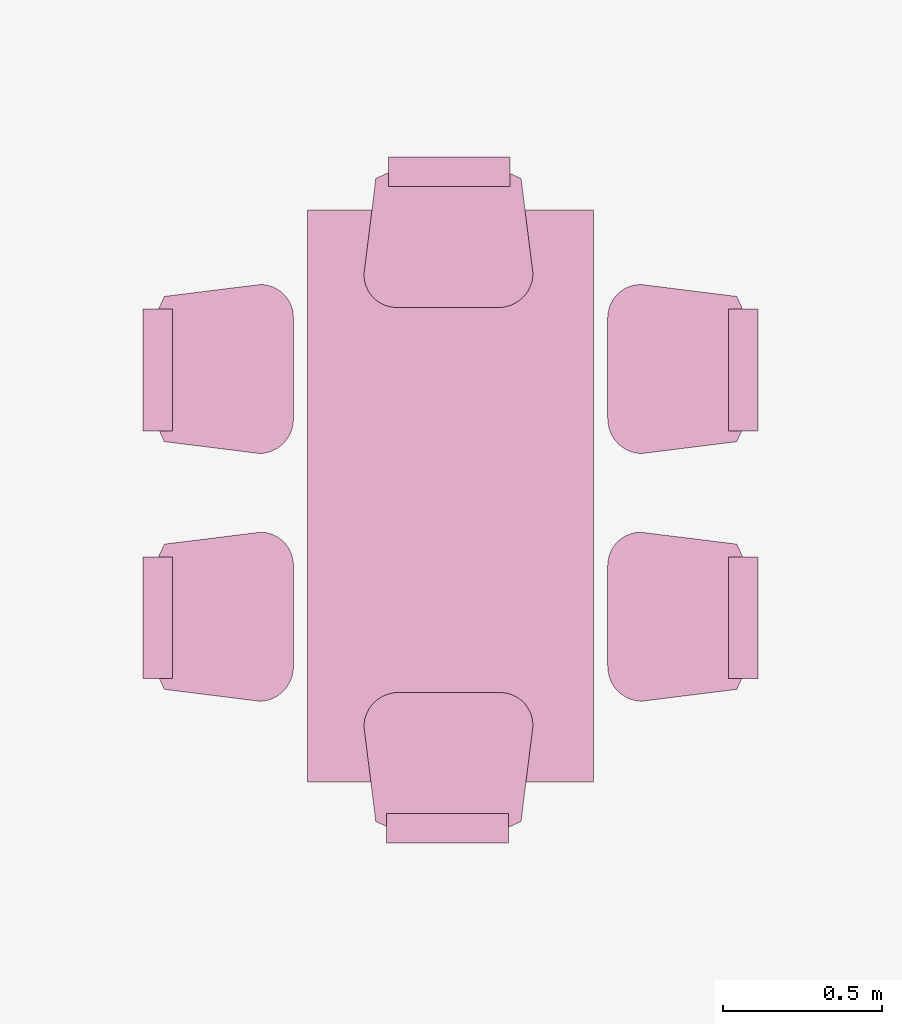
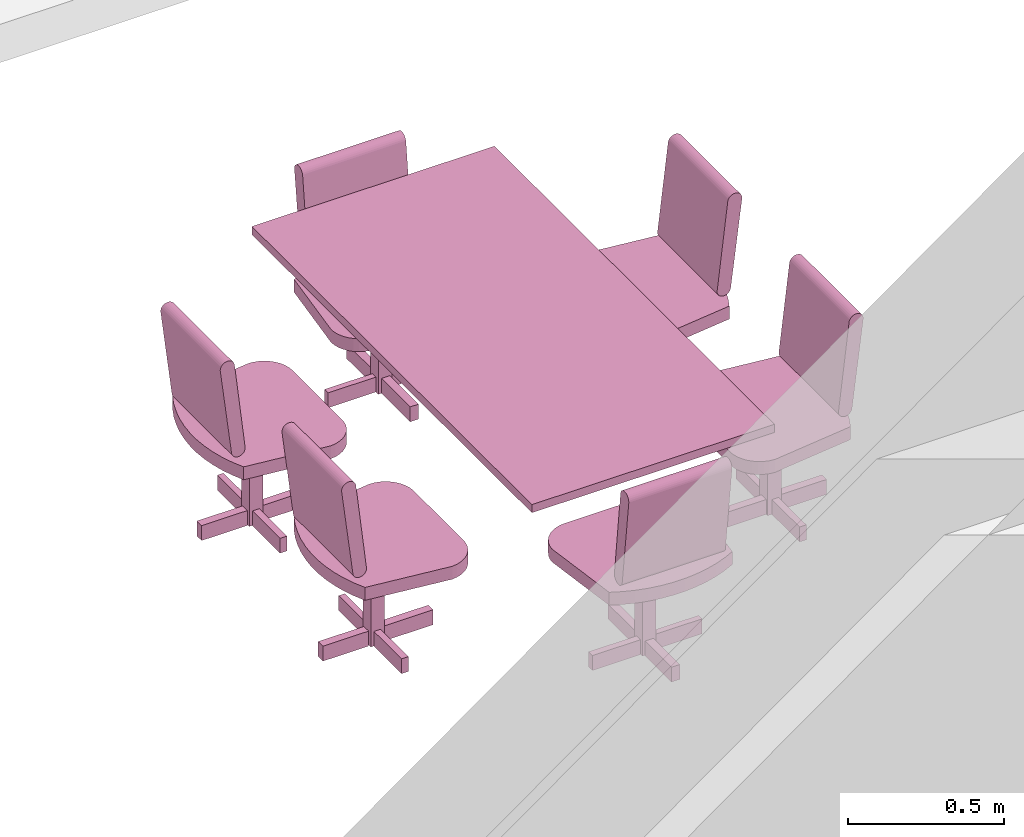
# One storey, part 60 of 64: 7 furnishings.
"""IFC2X3 building model written with IfcOpenShell, lengths in millimetres."""

import ifcopenshell
import ifcopenshell.guid

model = None  # the IFC model being written
_history = None  # IfcOwnerHistory: only IFC2X3 demands one
_inside = {}  # id of a spatial element -> (the spatial element, [elements in it])
_under = {}  # id of a project, library or spatial element -> (it, [spatial elements below it])
_declared = {}  # id of a project -> (the project, [libraries it declares])
_typed = {}  # id of a type object -> (the type object, [elements of that type])
_made_of = {}  # id of a material, layer set ... -> (it, [elements and type objects made of it])


def new_model(schema):
    """Start an empty IFC model of exactly this schema.

    Asked for "IFC4X3", IfcOpenShell would pick the latest addendum, in which some entities
    have other attributes; the version numbers below select the first issue.
    IFC2X3 requires an IfcOwnerHistory on every rooted entity: one is made here for all.
    """
    global model, _history
    if schema == "IFC4X3":
        model = ifcopenshell.file(schema_version=(4, 3, 0, 0))
    else:
        model = ifcopenshell.file(schema=schema)
    _inside.clear()
    _under.clear()
    _declared.clear()
    _typed.clear()
    _made_of.clear()
    _history = None
    if model.schema == "IFC2X3":
        org = make("IfcOrganization", Name="unknown")
        user = make(
            "IfcPersonAndOrganization",
            ThePerson=make("IfcPerson", FamilyName="unknown"),
            TheOrganization=org,
        )
        app = make(
            "IfcApplication",
            ApplicationDeveloper=org,
            Version="unknown",
            ApplicationFullName="unknown",
            ApplicationIdentifier="unknown",
        )
        _history = make(
            "IfcOwnerHistory",
            OwningUser=user,
            OwningApplication=app,
            ChangeAction="ADDED",
            CreationDate=0,
        )
    return model


def make(cls, **values):
    """One entity of the class cls with the attributes given. An attribute that is None is left unset."""
    return model.create_entity(
        cls, **{name: value for name, value in values.items() if value is not None}
    )


def entity(cls, *values):
    """Any entity or typed value of the class cls, its attributes in the order of the schema. None: left unset."""
    e = model.create_entity(cls)
    for i, value in enumerate(values):
        if value is not None:
            e[i] = value
    return e


def rooted(cls, **values):
    """An entity with a GlobalId (a new one), such as an element, a storey or a relation."""
    return make(cls, GlobalId=ifcopenshell.guid.new(), OwnerHistory=_history, **values)


def si_unit(unit_type, name, prefix=None):
    """IfcSIUnit, for example si_unit("LENGTHUNIT", "METRE", prefix="MILLI")."""
    return make("IfcSIUnit", UnitType=unit_type, Prefix=prefix, Name=name)


def converted_unit(unit_type, name, factor, base, dimensions=None, offset=None):
    """IfcConversionBasedUnit, such as the inch: factor (a typed value) times the base unit."""
    return make(
        "IfcConversionBasedUnit"
        if offset is None
        else "IfcConversionBasedUnitWithOffset",
        ConversionOffset=offset,
        Dimensions=None
        if dimensions is None
        else entity("IfcDimensionalExponents", *dimensions),
        UnitType=unit_type,
        Name=name,
        ConversionFactor=make(
            "IfcMeasureWithUnit", ValueComponent=factor, UnitComponent=base
        ),
    )


def derived_unit(unit_type, elements):
    """IfcDerivedUnit: a product of units, each with its exponent."""
    return make(
        "IfcDerivedUnit",
        Elements=[
            make("IfcDerivedUnitElement", Unit=unit, Exponent=power)
            for unit, power in elements
        ],
        UnitType=unit_type,
    )


def assignment(units):
    """IfcUnitAssignment: the units of a project."""
    return None if units is None else make("IfcUnitAssignment", Units=units)


def point(xyz):
    """IfcCartesianPoint."""
    return None if xyz is None else make("IfcCartesianPoint", Coordinates=xyz)


def direction(xyz):
    """IfcDirection."""
    return None if xyz is None else make("IfcDirection", DirectionRatios=xyz)


def frame(location, z_axis=None, x_axis=None):
    """IfcAxis2Placement3D, a coordinate frame: its origin and axes. An axis left out is left unset."""
    return make(
        "IfcAxis2Placement3D",
        Location=point(location),
        Axis=direction(z_axis),
        RefDirection=direction(x_axis),
    )


def frame_2d(location, x_axis=None):
    """IfcAxis2Placement2D, a coordinate frame in the plane: its origin and x axis."""
    return make(
        "IfcAxis2Placement2D", Location=point(location), RefDirection=direction(x_axis)
    )


def origin():
    """The frame at (0, 0, 0) with its axes left unset."""
    return frame((0.0, 0.0, 0.0))


def origin_2d_with_axis():
    """The frame at (0, 0) in the plane with the x axis (1, 0) written out."""
    return frame_2d((0.0, 0.0), x_axis=(1.0, 0.0))


def place(relative_to, where):
    """IfcLocalPlacement: puts the frame where relative to a parent placement (None: the world)."""
    return make(
        "IfcLocalPlacement", PlacementRelTo=relative_to, RelativePlacement=where
    )


def context(
    kind, dimensions, precision=None, world=None, true_north=None, identifier=None
):
    """IfcGeometricRepresentationContext, for example the 3D "Model" context."""
    return make(
        "IfcGeometricRepresentationContext",
        ContextIdentifier=identifier,
        ContextType=kind,
        CoordinateSpaceDimension=dimensions,
        Precision=precision,
        WorldCoordinateSystem=world,
        TrueNorth=true_north,
    )


def subcontext(parent, identifier, kind, view, scale=None):
    """IfcGeometricRepresentationSubContext, for example "Body" below "Model"."""
    return make(
        "IfcGeometricRepresentationSubContext",
        ContextIdentifier=identifier,
        ContextType=kind,
        ParentContext=parent,
        TargetScale=scale,
        TargetView=view,
    )


def project(units=None, contexts=None):
    """IfcProject with its units and contexts."""
    return rooted(
        "IfcProject",
        Name="project",
        RepresentationContexts=contexts,
        UnitsInContext=assignment(units),
    )


def spatial(cls, under=None, at=None, **own):
    """A site, building, storey or space (cls), placed at a placement, below another one or the project."""
    s = rooted(cls, ObjectPlacement=at, **own)
    if under is not None:
        _under.setdefault(under.id(), (under, []))[1].append(s)
    return s


def polyline(points):
    """IfcPolyline through the points."""
    return make("IfcPolyline", Points=[point(p) for p in points])


def circle_curve(where, radius):
    """IfcCircle in the frame where."""
    return make("IfcCircle", Position=where, Radius=radius)


def parameter(value):
    """IfcParameterValue: where a trimmed curve begins or ends, as a parameter of its basis curve."""
    return model.create_entity("IfcParameterValue", value)


def trimmed(basis, trim1, trim2, sense, master):
    """IfcTrimmedCurve: the piece of a basis curve between two trims."""
    return make(
        "IfcTrimmedCurve",
        BasisCurve=basis,
        Trim1=trim1,
        Trim2=trim2,
        SenseAgreement=sense,
        MasterRepresentation=master,
    )


def segment(curve, same_sense, transition):
    """IfcCompositeCurveSegment."""
    return make(
        "IfcCompositeCurveSegment",
        Transition=transition,
        SameSense=same_sense,
        ParentCurve=curve,
    )


def composite_curve(segments, self_intersect=None):
    """IfcCompositeCurve: segments joined end to end."""
    return make("IfcCompositeCurve", Segments=segments, SelfIntersect=self_intersect)


def profile(cls, at=None, kind="AREA", **sizes):
    """A parametric profile (cls). Its sizes go by their IFC names, for example OverallWidth=200.0."""
    return make(cls, ProfileType=kind, Position=at, **sizes)


def rectangle(**sizes):
    """IfcRectangleProfileDef."""
    return profile("IfcRectangleProfileDef", **sizes)


def outline(outer, holes=None, kind="AREA"):
    """IfcArbitraryClosedProfileDef: a profile drawn as a closed curve; with holes, ...WithVoids."""
    if holes is None:
        return make("IfcArbitraryClosedProfileDef", ProfileType=kind, OuterCurve=outer)
    return make(
        "IfcArbitraryProfileDefWithVoids",
        ProfileType=kind,
        OuterCurve=outer,
        InnerCurves=holes,
    )


def extrude(swept, where, along, depth):
    """IfcExtrudedAreaSolid: the profile swept, set in the frame where, extruded along a direction by depth."""
    return make(
        "IfcExtrudedAreaSolid",
        SweptArea=swept,
        Position=where,
        ExtrudedDirection=direction(along),
        Depth=depth,
    )


def shape(context_of_items, identifier, shape_type, items):
    """IfcShapeRepresentation: the items that make up one representation, for example the "Body"."""
    return make(
        "IfcShapeRepresentation",
        ContextOfItems=context_of_items,
        RepresentationIdentifier=identifier,
        RepresentationType=shape_type,
        Items=items,
    )


def source(mapping_origin, context_of_items, identifier, shape_type, items):
    """IfcRepresentationMap: a shape defined once, which mapped items show again and again."""
    return make(
        "IfcRepresentationMap",
        MappingOrigin=mapping_origin,
        MappedRepresentation=shape(context_of_items, identifier, shape_type, items),
    )


def transform(
    local_origin,
    x_axis=None,
    y_axis=None,
    z_axis=None,
    scale=None,
    scale2=None,
    scale3=None,
    uniform=True,
):
    """IfcCartesianTransformationOperator3D, or its non-uniform kind. x_axis, y_axis, z_axis: its Axis1, 2, 3."""
    if uniform:
        return make(
            "IfcCartesianTransformationOperator3D",
            Axis1=direction(x_axis),
            Axis2=direction(y_axis),
            LocalOrigin=point(local_origin),
            Scale=scale,
            Axis3=direction(z_axis),
        )
    return make(
        "IfcCartesianTransformationOperator3DnonUniform",
        Axis1=direction(x_axis),
        Axis2=direction(y_axis),
        LocalOrigin=point(local_origin),
        Scale=scale,
        Axis3=direction(z_axis),
        Scale2=scale2,
        Scale3=scale3,
    )


def mapped(mapping_source, mapping_target):
    """IfcMappedItem: shows the shape of a source again, moved by a transform."""
    return make(
        "IfcMappedItem", MappingSource=mapping_source, MappingTarget=mapping_target
    )


def material(Name=None, Category=None):
    """IfcMaterial."""
    return make("IfcMaterial", Name=Name, Category=Category)


def material_list(materials):
    """IfcMaterialList."""
    return make("IfcMaterialList", Materials=materials)


def made_of(thing, what):
    """Note that an element or type object is made of a material, layer set ...; save() writes the relation."""
    if what is not None:
        _made_of.setdefault(what.id(), (what, []))[1].append(thing)
    return thing


def type_object(cls, material=None, **own):
    """A type object (cls), such as IfcWallType, which elements share."""
    return made_of(rooted(cls, **own), material)


def type_shapes(of_type, sources):
    """Give a type object the sources (RepresentationMaps) that its elements show as mapped items."""
    of_type.RepresentationMaps = sources


def element(
    cls,
    number,
    at=None,
    inside=None,
    cuts=None,
    type_object=None,
    material=None,
    context=None,
    identifier="Body",
    shape_type=None,
    held_by="IfcProductDefinitionShape",
    body=None,
    shapes=None,
    **own,
):
    """One element of the class cls, such as IfcWall. Its Tag is "e" and its number.

    at: its placement. inside: the storey or other place that contains it. cuts: it is an
    opening in that element (IfcRelVoidsElement). A single representation is given by context,
    identifier, shape_type and body (its items); several are given by shapes. held_by: the class
    of the entity that holds the representations. save() writes the other relations.
    """
    e = rooted(cls, Tag="e%d" % number, ObjectPlacement=at, **own)
    if body is not None:
        shapes = [shape(context, identifier, shape_type, body)]
    if shapes is not None:
        e.Representation = make(held_by, Representations=shapes)
    if inside is not None:
        _inside.setdefault(inside.id(), (inside, []))[1].append(e)
    if cuts is not None:
        rooted(
            "IfcRelVoidsElement", RelatingBuildingElement=cuts, RelatedOpeningElement=e
        )
    if type_object is not None:
        _typed.setdefault(type_object.id(), (type_object, []))[1].append(e)
    return made_of(e, material)


def aggregate(whole, parts):
    """IfcRelAggregates: a whole, such as a stair, and the parts it consists of."""
    return rooted("IfcRelAggregates", RelatingObject=whole, RelatedObjects=parts)


def save(model, path):
    """Write the relations noted so far, then the file.

    IfcRelAggregates (storeys below a building ...), IfcRelContainedInSpatialStructure (elements
    in a storey), IfcRelDefinesByType, IfcRelAssociatesMaterial and IfcRelDeclares: one each for
    every whole, place, type object, material and project.
    """
    for whole, parts in _under.values():
        aggregate(whole, parts)
    for where, things in _inside.values():
        rooted(
            "IfcRelContainedInSpatialStructure",
            RelatedElements=things,
            RelatingStructure=where,
        )
    for kind, things in _typed.values():
        rooted("IfcRelDefinesByType", RelatedObjects=things, RelatingType=kind)
    for what, things in _made_of.values():
        rooted("IfcRelAssociatesMaterial", RelatedObjects=things, RelatingMaterial=what)
    for by, libraries in _declared.values():
        rooted("IfcRelDeclares", RelatingContext=by, RelatedDefinitions=libraries)
    model.write(path)


model = new_model("IFC2X3")

# Units and contexts
model_context = context("Model", 3, precision=0.01, world=origin(), true_north=direction((4.05803320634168e-15, -1.0)))
body_context = subcontext(model_context, "Body", "Model", "MODEL_VIEW")
ifc_project = project(units=[si_unit("LENGTHUNIT", "METRE", prefix="MILLI"), si_unit("AREAUNIT", "SQUARE_METRE"), si_unit("VOLUMEUNIT", "CUBIC_METRE"), converted_unit("PLANEANGLEUNIT", "DEGREE", entity("IfcRatioMeasure", 0.0174532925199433), si_unit("PLANEANGLEUNIT", "RADIAN"), dimensions=[0, 0, 0, 0, 0, 0, 0]), si_unit("MASSUNIT", "GRAM", prefix="KILO"), derived_unit("MASSDENSITYUNIT", [(si_unit("MASSUNIT", "GRAM", prefix="KILO"), 1), (si_unit("LENGTHUNIT", "METRE"), -3)]), si_unit("TIMEUNIT", "SECOND"), si_unit("FREQUENCYUNIT", "HERTZ"), si_unit("THERMODYNAMICTEMPERATUREUNIT", "DEGREE_CELSIUS"), derived_unit("THERMALTRANSMITTANCEUNIT", [(si_unit("MASSUNIT", "GRAM", prefix="KILO"), 1), (si_unit("THERMODYNAMICTEMPERATUREUNIT", "KELVIN"), -1), (si_unit("TIMEUNIT", "SECOND"), -3)]), derived_unit("VOLUMETRICFLOWRATEUNIT", [(si_unit("LENGTHUNIT", "METRE"), 3), (si_unit("TIMEUNIT", "SECOND"), -1)]), si_unit("ELECTRICCURRENTUNIT", "AMPERE"), si_unit("ELECTRICVOLTAGEUNIT", "VOLT"), si_unit("POWERUNIT", "WATT"), si_unit("FORCEUNIT", "NEWTON", prefix="KILO"), si_unit("ILLUMINANCEUNIT", "LUX"), si_unit("LUMINOUSFLUXUNIT", "LUMEN"), si_unit("LUMINOUSINTENSITYUNIT", "CANDELA"), derived_unit("USERDEFINED", [(si_unit("MASSUNIT", "GRAM", prefix="KILO"), -1), (si_unit("LENGTHUNIT", "METRE"), -2), (si_unit("TIMEUNIT", "SECOND"), 3), (si_unit("LUMINOUSFLUXUNIT", "LUMEN"), 1)]), derived_unit("LINEARVELOCITYUNIT", [(si_unit("LENGTHUNIT", "METRE"), 1), (si_unit("TIMEUNIT", "SECOND"), -1)]), si_unit("PRESSUREUNIT", "PASCAL"), derived_unit("USERDEFINED", [(si_unit("LENGTHUNIT", "METRE"), -2), (si_unit("MASSUNIT", "GRAM", prefix="KILO"), 1), (si_unit("TIMEUNIT", "SECOND"), -2)])], contexts=[model_context])

# Site, building, storey
site_placement = place(None, frame((927466.849349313, 583801.882853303, 0.0), z_axis=(0.0, 0.0, 1.0), x_axis=(-1.0, 0.0, 0.0)))
site = spatial("IfcSite", under=ifc_project, at=site_placement, Name="Surface", CompositionType="ELEMENT")
building_placement = place(site_placement, origin())
building = spatial("IfcBuilding", under=site, at=building_placement, CompositionType="ELEMENT")
storey_placement = place(building_placement, frame((0.0, 0.0, 44170.0)))
storey = spatial("IfcBuildingStorey", under=building, at=storey_placement, Name="Ground FFL", CompositionType="ELEMENT", Elevation=44170.0)

# Furnishings
ifc_material_1 = material(Name="Paint - White")
furniture_type_1 = type_object("IfcFurnitureType", Name="Desk 900x1800", AssemblyPlace="NOTDEFINED", material=ifc_material_1)
shared_shape_1 = source(origin(), body_context, "Body", "SweptSolid", [
    extrude(rectangle(XDim=1800.0, YDim=900.0, at=origin_2d_with_axis()), frame((0.0, 450.0, 718.0)), (0.0, 0.0, 1.0), 32.0),
])
type_shapes(furniture_type_1, [shared_shape_1])
furnishing_1_placement = place(storey_placement, frame((-149927.732343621, 9461.04257544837, -1360.0), z_axis=(0.0, 0.0, 1.0), x_axis=(0.0, 1.0, 0.0)))
element("IfcFurnishingElement", 1, at=furnishing_1_placement, inside=storey, type_object=furniture_type_1, material=ifc_material_1, Name="Desk 900x1800:Desk 900x1800", ObjectType="Desk 900x1800", context=body_context, shape_type="MappedRepresentation", body=[
    mapped(shared_shape_1, transform((0.0, 0.0, 0.0), scale=1.0)),
])
ifc_material_2 = material(Name="Metal - Chrome")
ifc_material_3 = material(Name="Textile - Slate Blue")
ifc_material_list_1 = material_list([ifc_material_2, ifc_material_3])
ifc_material_list_2 = material_list([ifc_material_2, ifc_material_3])
furniture_type_2 = type_object("IfcFurnitureType", Name="Desk Chair", AssemblyPlace="NOTDEFINED", material=ifc_material_list_2)
shared_shape_2 = source(origin(), body_context, "Body", "SweptSolid", [
    extrude(rectangle(XDim=30.4799999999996, YDim=186.06811500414, at=origin_2d_with_axis()), frame((-0.923636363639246, 281.917693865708, 0.0)), (0.0, 0.0, 1.0), 58.5040426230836),
    extrude(rectangle(XDim=30.4799999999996, YDim=169.487272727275, at=origin_2d_with_axis()), frame((-0.923636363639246, 51.4927272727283, 0.0), z_axis=(0.0, 0.0, 1.0), x_axis=(-1.0, 0.0, 0.0)), (0.0, 0.0, 1.0), 58.5040426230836),
    extrude(rectangle(XDim=24.9827940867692, YDim=177.8, at=origin_2d_with_axis()), frame((-114.761818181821, 162.537693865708, 0.0), z_axis=(0.0, 0.0, 1.0), x_axis=(0.0, -1.0, 0.0)), (0.0, 0.0, 1.0), 58.5040426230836),
    extrude(rectangle(XDim=177.338181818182, YDim=22.629090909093, at=origin_2d_with_axis()), frame((115.454545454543, 163.714545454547, 0.0), z_axis=(0.0, 0.0, 1.0), x_axis=(-1.0, 0.0, 0.0)), (0.0, 0.0, 1.0), 58.5040426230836),
    extrude(rectangle(XDim=50.7999999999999, YDim=50.8, at=frame_2d((0.0, 1.77635683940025e-14), x_axis=(1.0, 0.0))), frame((0.923636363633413, 164.869090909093, 0.0), z_axis=(0.0, 0.0, 1.0), x_axis=(-1.0, 0.0, 0.0)), (0.0, 0.0, 1.0), 355.6),
    extrude(outline(composite_curve([segment(trimmed(circle_curve(frame_2d((-20.2484072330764, 168.005962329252), x_axis=(1.0, 0.0)), 26.7884929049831), [parameter(359.999999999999)], [parameter(179.999999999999)], True, "PARAMETER"), True, "CONTINUOUS"), segment(polyline([(-47.0369001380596, 168.005962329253), (-5.22778910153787, -168.005962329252)]), True, "CONTINUOUS"), segment(trimmed(circle_curve(frame_2d((20.2484072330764, -168.005962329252), x_axis=(1.0, 0.0)), 25.4761963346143), [parameter(180.0)], [parameter(359.999999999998)], True, "PARAMETER"), True, "CONTINUOUS"), segment(polyline([(45.7246035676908, -168.005962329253), (6.54008567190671, 168.005962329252)]), True, "CONTINUOUS")], self_intersect=False)), frame((-194.36430563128, -20.1722108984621, 619.394037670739), z_axis=(1.0, 0.0, 0.0), x_axis=(0.0, 1.0, 0.0)), (0.0, 0.0, 1.0), 383.27680563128),
    extrude(outline(composite_curve([segment(polyline([(-98.8964113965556, -257.738474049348), (205.903588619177, -257.738474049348)]), True, "CONTINUOUS"), segment(trimmed(circle_curve(frame_2d((-209.185203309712, 24.5266400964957), x_axis=(0.124034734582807, 0.992277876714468)), 501.968425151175), [parameter(242.908867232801)], [parameter(297.091132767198)], True, "PARAMETER"), True, "CONTINUOUS"), segment(polyline([(262.612269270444, 195.930971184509), (-32.8339614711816, 270.761125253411)]), True, "CONTINUOUS"), segment(trimmed(circle_curve(frame_2d((-45.7278314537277, 167.610165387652), x_axis=(0.124034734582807, 0.992277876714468)), 103.953703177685), [parameter(359.999999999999)], [parameter(89.9999999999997)], True, "PARAMETER"), True, "CONTINUOUS"), segment(polyline([(-148.878791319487, 180.504035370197), (-187.906693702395, -131.719183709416)]), True, "CONTINUOUS"), segment(trimmed(circle_curve(frame_2d((-80.0405815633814, -149.975538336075), x_axis=(0.124034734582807, 0.992277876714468)), 109.400149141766), [parameter(87.5187332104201)], [parameter(177.200155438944)], True, "PARAMETER"), True, "CONTINUOUS")], self_intersect=False)), frame((1.6089888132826, 236.282098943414, 355.6), z_axis=(0.0, 0.0, 1.0), x_axis=(0.124034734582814, -0.992277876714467, 0.0)), (0.0, 0.0, 1.0), 50.8000000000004),
])
type_shapes(furniture_type_2, [shared_shape_2])
furnishing_2_placement = place(storey_placement, frame((-151278.932370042, 9061.04257544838, -1360.0), z_axis=(0.0, 0.0, 1.0), x_axis=(0.0, -1.0, 0.0)))
element("IfcFurnishingElement", 2, at=furnishing_2_placement, inside=storey, type_object=furniture_type_2, material=ifc_material_list_1, Name="M_Chair-Desk:Desk Chair", ObjectType="Desk Chair", context=body_context, shape_type="MappedRepresentation", body=[
    mapped(shared_shape_2, transform((0.0, 0.0, 0.0), scale=1.0)),
])
ifc_material_list_3 = material_list([ifc_material_2, ifc_material_3])
furnishing_3_placement = place(storey_placement, frame((-151278.932370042, 9841.04257544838, -1360.0), z_axis=(0.0, 0.0, 1.0), x_axis=(0.0, -1.0, 0.0)))
element("IfcFurnishingElement", 3, at=furnishing_3_placement, inside=storey, type_object=furniture_type_2, material=ifc_material_list_3, Name="M_Chair-Desk:Desk Chair", ObjectType="Desk Chair", context=body_context, shape_type="MappedRepresentation", body=[
    mapped(shared_shape_2, transform((0.0, 0.0, 0.0), scale=1.0)),
])
ifc_material_list_4 = material_list([ifc_material_2, ifc_material_3])
furnishing_4_placement = place(storey_placement, frame((-150371.011468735, 8461.04257544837, -1360.0)))
element("IfcFurnishingElement", 4, at=furnishing_4_placement, inside=storey, type_object=furniture_type_2, material=ifc_material_list_4, Name="M_Chair-Desk:Desk Chair", ObjectType="Desk Chair", context=body_context, shape_type="MappedRepresentation", body=[
    mapped(shared_shape_2, transform((0.0, 0.0, 0.0), scale=1.0)),
])
ifc_material_list_5 = material_list([ifc_material_2, ifc_material_3])
furnishing_5_placement = place(storey_placement, frame((-150371.011468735, 10485.7870170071, -1360.0), z_axis=(0.0, 0.0, 1.0), x_axis=(-1.0, 0.0, 0.0)))
element("IfcFurnishingElement", 5, at=furnishing_5_placement, inside=storey, type_object=furniture_type_2, material=ifc_material_list_5, Name="M_Chair-Desk:Desk Chair", ObjectType="Desk Chair", context=body_context, shape_type="MappedRepresentation", body=[
    mapped(shared_shape_2, transform((0.0, 0.0, 0.0), scale=1.0)),
])
ifc_material_list_6 = material_list([ifc_material_2, ifc_material_3])
ifc_material_list_7 = material_list([ifc_material_2, ifc_material_3])
furniture_type_3 = type_object("IfcFurnitureType", Name="Desk Chair", AssemblyPlace="NOTDEFINED", material=ifc_material_list_7)
shared_shape_3 = source(origin(), body_context, "Body", "SweptSolid", [
    extrude(rectangle(XDim=186.06811500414, YDim=30.4799999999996, at=origin_2d_with_axis()), frame((-0.923636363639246, -281.917693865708, 0.0), z_axis=(0.0, 0.0, 1.0), x_axis=(0.0, -1.0, 0.0)), (0.0, 0.0, 1.0), 58.5040426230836),
    extrude(rectangle(XDim=169.487272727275, YDim=30.4799999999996, at=origin_2d_with_axis()), frame((-0.923636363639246, -51.4927272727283, 0.0), z_axis=(0.0, 0.0, 1.0), x_axis=(0.0, 1.0, 0.0)), (0.0, 0.0, 1.0), 58.5040426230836),
    extrude(rectangle(XDim=177.8, YDim=24.9827940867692, at=origin_2d_with_axis()), frame((-114.761818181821, -162.537693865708, 0.0)), (0.0, 0.0, 1.0), 58.5040426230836),
    extrude(rectangle(XDim=22.629090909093, YDim=177.338181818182, at=origin_2d_with_axis()), frame((115.454545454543, -163.714545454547, 0.0), z_axis=(0.0, 0.0, 1.0), x_axis=(0.0, 1.0, 0.0)), (0.0, 0.0, 1.0), 58.5040426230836),
    extrude(rectangle(XDim=50.8, YDim=50.7999999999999, at=frame_2d((1.77635683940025e-14, 0.0), x_axis=(1.0, 0.0))), frame((0.923636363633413, -164.869090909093, 0.0), z_axis=(0.0, 0.0, 1.0), x_axis=(0.0, 1.0, 0.0)), (0.0, 0.0, 1.0), 355.6),
    extrude(outline(composite_curve([segment(polyline([(-166.117545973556, -25.956444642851), (172.171442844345, -25.956444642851)]), True, "CONTINUOUS"), segment(trimmed(circle_curve(frame_2d((169.220497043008, -0.65173167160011), x_axis=(0.115831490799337, -0.993268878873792)), 25.4761963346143), [parameter(1.67933287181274e-12)], [parameter(180.0)], True, "PARAMETER"), True, "CONTINUOUS"), segment(polyline([(166.269551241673, 24.6529812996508), (-172.323448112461, 27.2599079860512)]), True, "CONTINUOUS"), segment(trimmed(circle_curve(frame_2d((-169.220497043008, 0.651731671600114), x_axis=(0.115831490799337, -0.993268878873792)), 26.7884929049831), [parameter(180.000000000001)], [parameter(5.5977762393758e-13)], True, "PARAMETER"), True, "CONTINUOUS")], self_intersect=False)), frame((-194.36430563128, 20.1722108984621, 619.394037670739), z_axis=(1.0, 0.0, 0.0), x_axis=(0.0, -0.115831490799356, -0.993268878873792)), (0.0, 0.0, 1.0), 383.27680563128),
    extrude(outline(composite_curve([segment(trimmed(circle_curve(frame_2d((-158.745221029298, -60.8203222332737), x_axis=(1.0, 0.0)), 109.400149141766), [parameter(182.799844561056)], [parameter(272.48126678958)], True, "PARAMETER"), True, "CONTINUOUS"), segment(polyline([(-154.008988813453, -170.117901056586), (160.644019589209, -170.117901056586)]), True, "CONTINUOUS"), segment(trimmed(circle_curve(frame_2d((160.644019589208, -66.164197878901), x_axis=(1.0, 0.0)), 103.953703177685), [parameter(270.0)], [parameter(1.06866637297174e-12)], True, "PARAMETER"), True, "CONTINUOUS"), segment(polyline([(264.597722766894, -66.1641978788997), (226.991011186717, 236.28209894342)]), True, "CONTINUOUS"), segment(trimmed(circle_curve(frame_2d((-1.6089888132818, -210.612004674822), x_axis=(1.0, 0.0)), 501.968425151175), [parameter(62.9088672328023)], [parameter(117.091132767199)], True, "PARAMETER"), True, "CONTINUOUS"), segment(polyline([(-230.208988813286, 236.282098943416), (-268.014775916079, -66.1641978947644)]), True, "CONTINUOUS")], self_intersect=False)), frame((1.60898881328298, -236.282098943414, 355.6)), (0.0, 0.0, 1.0), 50.8000000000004),
])
type_shapes(furniture_type_3, [shared_shape_3])
furnishing_6_placement = place(storey_placement, frame((-149476.532317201, 9061.04257544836, -1360.0), z_axis=(0.0, 0.0, 1.0), x_axis=(0.0, -1.0, 0.0)))
element("IfcFurnishingElement", 6, at=furnishing_6_placement, inside=storey, type_object=furniture_type_3, material=ifc_material_list_6, Name="M_Chair-Desk:Desk Chair", ObjectType="Desk Chair", context=body_context, shape_type="MappedRepresentation", body=[
    mapped(shared_shape_3, transform((0.0, 0.0, 0.0), scale=1.0)),
])
ifc_material_list_8 = material_list([ifc_material_2, ifc_material_3])
furnishing_7_placement = place(storey_placement, frame((-149476.532317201, 9841.04257544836, -1360.0), z_axis=(0.0, 0.0, 1.0), x_axis=(0.0, -1.0, 0.0)))
element("IfcFurnishingElement", 7, at=furnishing_7_placement, inside=storey, type_object=furniture_type_3, material=ifc_material_list_8, Name="M_Chair-Desk:Desk Chair", ObjectType="Desk Chair", context=body_context, shape_type="MappedRepresentation", body=[
    mapped(shared_shape_3, transform((0.0, 0.0, 0.0), scale=1.0)),
])

save(model, "model.ifc")
